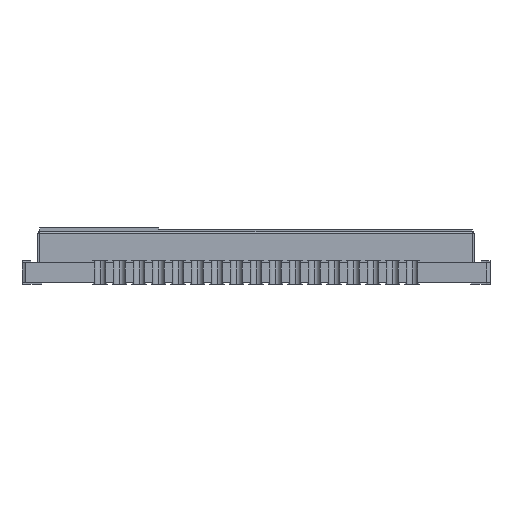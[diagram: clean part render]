
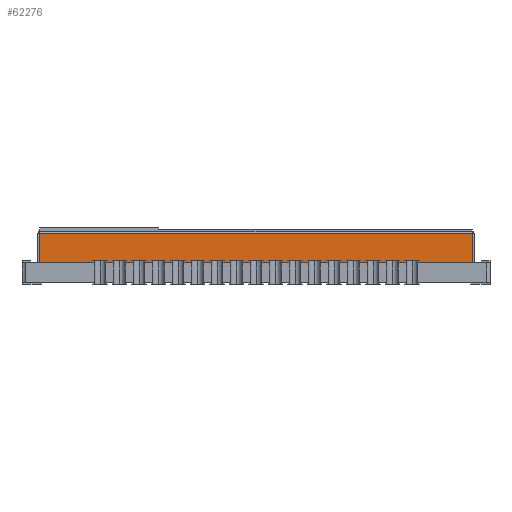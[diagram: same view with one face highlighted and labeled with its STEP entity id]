
A CAD part, left-side view. The second image highlights one B-rep face of the part: STEP entity #62276.
In plain terms, the highlighted planar face has unit normal (-1, 0, 0).
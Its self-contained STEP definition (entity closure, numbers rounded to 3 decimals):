
#535 = CARTESIAN_POINT ( 'NONE',  ( -11.18, -11.106, 2.6 ) ) ;
#1388 = VECTOR ( 'NONE', #51678, 1000. ) ;
#1638 = EDGE_CURVE ( 'NONE', #25717, #64052, #21971, .T. ) ;
#3141 = EDGE_LOOP ( 'NONE', ( #40235, #41946, #57810, #43968 ) ) ;
#6006 = LINE ( 'NONE', #535, #68367 ) ;
#9198 = CARTESIAN_POINT ( 'NONE',  ( -11.18, -11.18, 1. ) ) ;
#9453 = DIRECTION ( 'NONE',  ( 0., 0., 1. ) ) ;
#9764 = CARTESIAN_POINT ( 'NONE',  ( -11.18, -11.106, 2.5 ) ) ;
#16253 = CARTESIAN_POINT ( 'NONE',  ( -11.18, -11.18, 2.6 ) ) ;
#17952 = EDGE_CURVE ( 'NONE', #42011, #47384, #52767, .T. ) ;
#20625 = CARTESIAN_POINT ( 'NONE',  ( -11.18, -11.106, 1. ) ) ;
#20774 = CARTESIAN_POINT ( 'NONE',  ( -11.18, 11.11, 1. ) ) ;
#21971 = LINE ( 'NONE', #9198, #49194 ) ;
#24173 = CARTESIAN_POINT ( 'NONE',  ( -11.18, 11.11, 2.5 ) ) ;
#24771 = EDGE_CURVE ( 'NONE', #25717, #42011, #43066, .T. ) ;
#25717 = VERTEX_POINT ( 'NONE', #20774 ) ;
#29422 = CARTESIAN_POINT ( 'NONE',  ( -11.18, -11.18, 2.5 ) ) ;
#30325 = VECTOR ( 'NONE', #9453, 1000. ) ;
#31966 = DIRECTION ( 'NONE',  ( 0., 0., -1. ) ) ;
#33596 = EDGE_CURVE ( 'NONE', #47384, #64052, #6006, .T. ) ;
#37234 = CARTESIAN_POINT ( 'NONE',  ( -11.18, 11.11, 2.6 ) ) ;
#37824 = DIRECTION ( 'NONE',  ( 1., 0., 0. ) ) ;
#40235 = ORIENTED_EDGE ( 'NONE', *, *, #17952, .F. ) ;
#41946 = ORIENTED_EDGE ( 'NONE', *, *, #24771, .F. ) ;
#42011 = VERTEX_POINT ( 'NONE', #24173 ) ;
#43066 = LINE ( 'NONE', #37234, #30325 ) ;
#43968 = ORIENTED_EDGE ( 'NONE', *, *, #33596, .F. ) ;
#47384 = VERTEX_POINT ( 'NONE', #9764 ) ;
#48016 = PLANE ( 'NONE',  #55904 ) ;
#48354 = FACE_OUTER_BOUND ( 'NONE', #3141, .T. ) ;
#49194 = VECTOR ( 'NONE', #53753, 1000. ) ;
#51678 = DIRECTION ( 'NONE',  ( 0., -1., 0. ) ) ;
#52767 = LINE ( 'NONE', #29422, #1388 ) ;
#53753 = DIRECTION ( 'NONE',  ( 0., -1., 0. ) ) ;
#55904 = AXIS2_PLACEMENT_3D ( 'NONE', #16253, #37824, #31966 ) ;
#57810 = ORIENTED_EDGE ( 'NONE', *, *, #1638, .T. ) ;
#60424 = DIRECTION ( 'NONE',  ( 0., 0., -1. ) ) ;
#62276 = ADVANCED_FACE ( 'NONE', ( #48354 ), #48016, .F. ) ;
#64052 = VERTEX_POINT ( 'NONE', #20625 ) ;
#68367 = VECTOR ( 'NONE', #60424, 1000. ) ;
